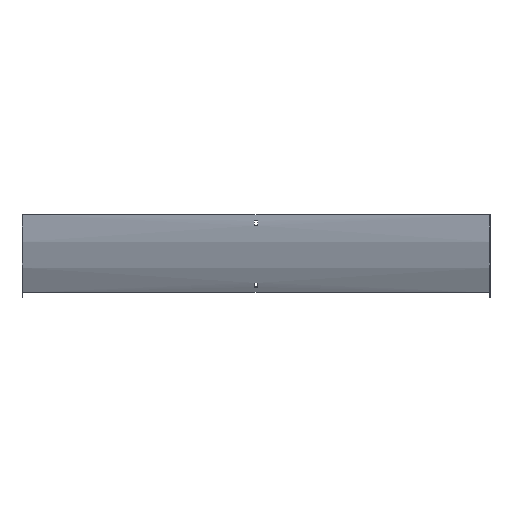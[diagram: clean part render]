
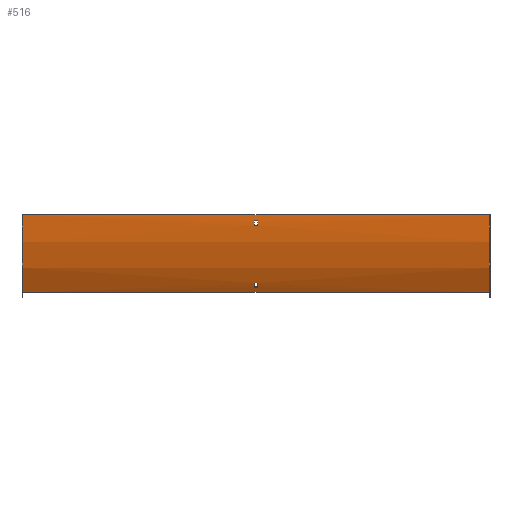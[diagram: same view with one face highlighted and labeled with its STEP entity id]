
A CAD part, front view. The second image highlights one B-rep face of the part: STEP entity #516.
In plain terms, the highlighted cylindrical face has radius 300 mm (diameter 600 mm), a partial arc.
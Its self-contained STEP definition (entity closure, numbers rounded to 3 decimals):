
#6 = CARTESIAN_POINT ( 'NONE',  ( 3.25, -1.26, -12. ) ) ;
#10 = CIRCLE ( 'NONE', #356, 300. ) ;
#11 = ORIENTED_EDGE ( 'NONE', *, *, #300, .T. ) ;
#18 = LINE ( 'NONE', #388, #244 ) ;
#27 = DIRECTION ( 'NONE',  ( 0., 0., -1. ) ) ;
#33 = DIRECTION ( 'NONE',  ( -1., 0., 0. ) ) ;
#38 = CARTESIAN_POINT ( 'NONE',  ( 451.5, -0.764, -21. ) ) ;
#43 = CIRCLE ( 'NONE', #150, 300. ) ;
#47 = CARTESIAN_POINT ( 'NONE',  ( -450., 298.5, 0. ) ) ;
#54 = CARTESIAN_POINT ( 'NONE',  ( 450., 38.692, -150. ) ) ;
#58 = AXIS2_PLACEMENT_3D ( 'NONE', #47, #371, #452 ) ;
#79 = CARTESIAN_POINT ( 'NONE',  ( 450., 38.692, -150. ) ) ;
#87 = DIRECTION ( 'NONE',  ( 0., 0., -1. ) ) ;
#89 = AXIS2_PLACEMENT_3D ( 'NONE', #262, #318, #539 ) ;
#92 = CARTESIAN_POINT ( 'NONE',  ( -450., -1.5, 0. ) ) ;
#93 = CYLINDRICAL_SURFACE ( 'NONE', #286, 300. ) ;
#94 = ORIENTED_EDGE ( 'NONE', *, *, #390, .F. ) ;
#114 = ORIENTED_EDGE ( 'NONE', *, *, #129, .T. ) ;
#129 = EDGE_CURVE ( 'NONE', #171, #317, #18, .T. ) ;
#134 = DIRECTION ( 'NONE',  ( -1., 0., 0. ) ) ;
#145 = CARTESIAN_POINT ( 'NONE',  ( 451.5, 32.9, -139.488 ) ) ;
#150 = AXIS2_PLACEMENT_3D ( 'NONE', #265, #437, #585 ) ;
#154 = VECTOR ( 'NONE', #219, 1000. ) ;
#161 = VERTEX_POINT ( 'NONE', #271 ) ;
#165 = EDGE_LOOP ( 'NONE', ( #253, #498, #574, #114 ) ) ;
#166 = DIRECTION ( 'NONE',  ( 1., 0., 0. ) ) ;
#171 = VERTEX_POINT ( 'NONE', #349 ) ;
#175 = LINE ( 'NONE', #145, #188 ) ;
#188 = VECTOR ( 'NONE', #134, 1000. ) ;
#202 = VERTEX_POINT ( 'NONE', #209 ) ;
#204 = EDGE_LOOP ( 'NONE', ( #11, #412, #576, #435 ) ) ;
#206 = CARTESIAN_POINT ( 'NONE',  ( -3.25, 298.5, 0. ) ) ;
#208 = LINE ( 'NONE', #447, #243 ) ;
#209 = CARTESIAN_POINT ( 'NONE',  ( -3.25, -0.764, -21. ) ) ;
#219 = DIRECTION ( 'NONE',  ( 1., 0., 0. ) ) ;
#224 = FACE_OUTER_BOUND ( 'NONE', #165, .T. ) ;
#228 = VERTEX_POINT ( 'NONE', #395 ) ;
#231 = DIRECTION ( 'NONE',  ( 0., 0., 1. ) ) ;
#236 = VERTEX_POINT ( 'NONE', #79 ) ;
#243 = VECTOR ( 'NONE', #441, 1000. ) ;
#244 = VECTOR ( 'NONE', #345, 1000. ) ;
#246 = EDGE_CURVE ( 'NONE', #202, #228, #268, .T. ) ;
#253 = ORIENTED_EDGE ( 'NONE', *, *, #501, .F. ) ;
#262 = CARTESIAN_POINT ( 'NONE',  ( 450., 298.5, 0. ) ) ;
#265 = CARTESIAN_POINT ( 'NONE',  ( -3.25, 298.5, 0. ) ) ;
#268 = LINE ( 'NONE', #38, #154 ) ;
#269 = DIRECTION ( 'NONE',  ( 1., 0., 0. ) ) ;
#270 = VERTEX_POINT ( 'NONE', #550 ) ;
#271 = CARTESIAN_POINT ( 'NONE',  ( 3.25, 28.83, -131.446 ) ) ;
#273 = CARTESIAN_POINT ( 'NONE',  ( -3.25, 32.9, -139.488 ) ) ;
#275 = EDGE_CURVE ( 'NONE', #236, #586, #287, .T. ) ;
#283 = FACE_BOUND ( 'NONE', #204, .T. ) ;
#286 = AXIS2_PLACEMENT_3D ( 'NONE', #600, #463, #231 ) ;
#287 = LINE ( 'NONE', #54, #302 ) ;
#300 = EDGE_CURVE ( 'NONE', #487, #523, #175, .T. ) ;
#302 = VECTOR ( 'NONE', #451, 1000. ) ;
#305 = CIRCLE ( 'NONE', #381, 300. ) ;
#310 = ORIENTED_EDGE ( 'NONE', *, *, #324, .F. ) ;
#317 = VERTEX_POINT ( 'NONE', #92 ) ;
#318 = DIRECTION ( 'NONE',  ( -1., 0., 0. ) ) ;
#323 = CARTESIAN_POINT ( 'NONE',  ( -3.25, -1.26, -12. ) ) ;
#324 = EDGE_CURVE ( 'NONE', #228, #591, #439, .T. ) ;
#334 = DIRECTION ( 'NONE',  ( -1., 0., 0. ) ) ;
#345 = DIRECTION ( 'NONE',  ( -1., 0., 0. ) ) ;
#349 = CARTESIAN_POINT ( 'NONE',  ( 450., -1.5, 0. ) ) ;
#356 = AXIS2_PLACEMENT_3D ( 'NONE', #206, #33, #27 ) ;
#357 = CARTESIAN_POINT ( 'NONE',  ( 451.5, 28.83, -131.446 ) ) ;
#361 = DIRECTION ( 'NONE',  ( 0., 0., 1. ) ) ;
#371 = DIRECTION ( 'NONE',  ( -1., 0., 0. ) ) ;
#376 = EDGE_CURVE ( 'NONE', #270, #161, #531, .T. ) ;
#381 = AXIS2_PLACEMENT_3D ( 'NONE', #442, #269, #361 ) ;
#388 = CARTESIAN_POINT ( 'NONE',  ( 450., -1.5, 0. ) ) ;
#390 = EDGE_CURVE ( 'NONE', #571, #202, #43, .T. ) ;
#391 = ORIENTED_EDGE ( 'NONE', *, *, #246, .F. ) ;
#395 = CARTESIAN_POINT ( 'NONE',  ( 3.25, -0.764, -21. ) ) ;
#396 = EDGE_CURVE ( 'NONE', #523, #270, #10, .T. ) ;
#400 = EDGE_CURVE ( 'NONE', #236, #171, #402, .T. ) ;
#402 = CIRCLE ( 'NONE', #89, 300. ) ;
#412 = ORIENTED_EDGE ( 'NONE', *, *, #396, .T. ) ;
#435 = ORIENTED_EDGE ( 'NONE', *, *, #468, .T. ) ;
#437 = DIRECTION ( 'NONE',  ( 1., 0., 0. ) ) ;
#439 = CIRCLE ( 'NONE', #599, 300. ) ;
#441 = DIRECTION ( 'NONE',  ( -1., 0., 0. ) ) ;
#442 = CARTESIAN_POINT ( 'NONE',  ( 3.25, 298.5, 0. ) ) ;
#445 = EDGE_LOOP ( 'NONE', ( #94, #475, #310, #391 ) ) ;
#447 = CARTESIAN_POINT ( 'NONE',  ( 451.5, -1.26, -12. ) ) ;
#451 = DIRECTION ( 'NONE',  ( -1., 0., 0. ) ) ;
#452 = DIRECTION ( 'NONE',  ( 0., 0., 1. ) ) ;
#463 = DIRECTION ( 'NONE',  ( -1., 0., 0. ) ) ;
#468 = EDGE_CURVE ( 'NONE', #161, #487, #305, .T. ) ;
#472 = EDGE_CURVE ( 'NONE', #591, #571, #208, .T. ) ;
#475 = ORIENTED_EDGE ( 'NONE', *, *, #472, .F. ) ;
#487 = VERTEX_POINT ( 'NONE', #541 ) ;
#498 = ORIENTED_EDGE ( 'NONE', *, *, #275, .F. ) ;
#501 = EDGE_CURVE ( 'NONE', #586, #317, #588, .T. ) ;
#516 = ADVANCED_FACE ( 'NONE', ( #563, #224, #283 ), #93, .T. ) ;
#523 = VERTEX_POINT ( 'NONE', #273 ) ;
#531 = LINE ( 'NONE', #357, #536 ) ;
#536 = VECTOR ( 'NONE', #166, 1000. ) ;
#539 = DIRECTION ( 'NONE',  ( 0., 0., 1. ) ) ;
#541 = CARTESIAN_POINT ( 'NONE',  ( 3.25, 32.9, -139.488 ) ) ;
#550 = CARTESIAN_POINT ( 'NONE',  ( -3.25, 28.83, -131.446 ) ) ;
#562 = CARTESIAN_POINT ( 'NONE',  ( 3.25, 298.5, 0. ) ) ;
#563 = FACE_BOUND ( 'NONE', #445, .T. ) ;
#571 = VERTEX_POINT ( 'NONE', #323 ) ;
#574 = ORIENTED_EDGE ( 'NONE', *, *, #400, .T. ) ;
#576 = ORIENTED_EDGE ( 'NONE', *, *, #376, .T. ) ;
#585 = DIRECTION ( 'NONE',  ( 0., 0., 1. ) ) ;
#586 = VERTEX_POINT ( 'NONE', #603 ) ;
#588 = CIRCLE ( 'NONE', #58, 300. ) ;
#591 = VERTEX_POINT ( 'NONE', #6 ) ;
#599 = AXIS2_PLACEMENT_3D ( 'NONE', #562, #334, #87 ) ;
#600 = CARTESIAN_POINT ( 'NONE',  ( 451.5, 298.5, 0. ) ) ;
#603 = CARTESIAN_POINT ( 'NONE',  ( -450., 38.692, -150. ) ) ;
